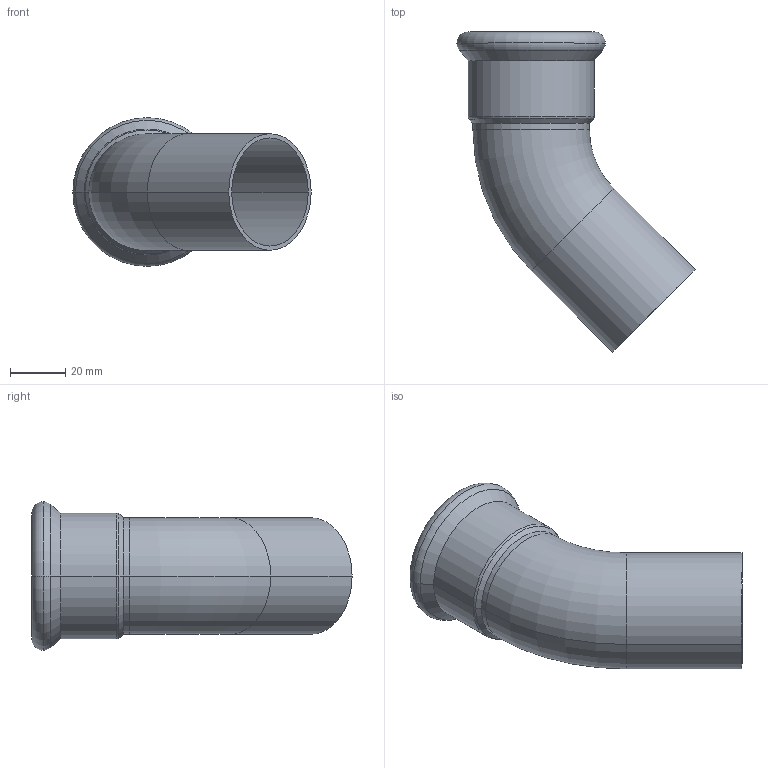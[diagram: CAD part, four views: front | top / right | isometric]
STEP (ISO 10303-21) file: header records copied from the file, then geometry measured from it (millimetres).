
FILE_DESCRIPTION(('OneSpaceDesigner STEP Export'),'2;1');
FILE_NAME('R2712 42x42.stp','2010-06-09T15:23:56',(''),(''),'OneSpace Designer STEP processor for AP214 (Solid Model)','OneSpace Modeling 15.00A 14-Mar-2007 (C) CoCreate Software GmbH','');
FILE_SCHEMA(('AUTOMOTIVE_DESIGN { 1 0 10303 214 1 1 1 1 }'));
Length unit declared in the file: millimetre
Products named in the file (2): R2712_42x42
Assembly tree (1 placements, depth 2):
  R2712_42x42
    R2712_42x42
Bounding box: 85.89 x 115.41 x 53.55 mm (x, y, z)
Volume: 28175.7 mm3; surface area: 33177 mm2
Topology: 1 solids, 1 shells, 68 faces, 168 edges, 107 vertices
Faces by surface type: plane 31, cylinder 23, torus 10, cone 4
Entity records: 1798 total; most frequent: ORIENTED_EDGE 336, CARTESIAN_POINT 287, DIRECTION 267, EDGE_CURVE 168, VERTEX_POINT 107, VECTOR 93, LINE 93, AXIS2_PLACEMENT_3D 87
